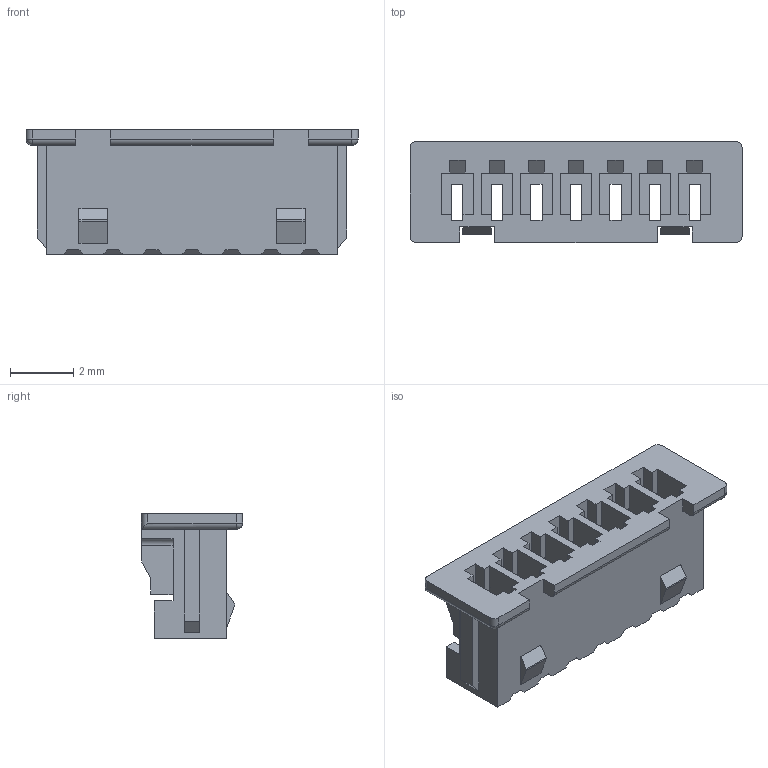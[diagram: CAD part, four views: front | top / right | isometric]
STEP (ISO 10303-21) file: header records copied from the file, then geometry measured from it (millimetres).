
FILE_DESCRIPTION(('CATIA V5 STEP Exchange'),'2;1');
FILE_NAME('F:\小黄\条形连接器\1.25系列\01--1.25\NY\HC-1.25-7Y-05(1.25 单排 孔座-HCTL).stp','2025-08-07T01:51:24+00:00',('none'),('none'),'CATIA Version 5 Release 20 GA (IN-10)','CATIA V5 STEP AP203','none');
FILE_SCHEMA(('CONFIG_CONTROL_DESIGN'));
Length unit declared in the file: millimetre
Products named in the file (1): Part2
Bounding box: 10.5 x 3.2 x 3.95 mm (x, y, z)
Volume: 52.4 mm3; surface area: 312.5 mm2
Topology: 1 solids, 1 shells, 277 faces, 806 edges, 510 vertices
Faces by surface type: plane 258, cylinder 17, sphere 2
Entity records: 8329 total; most frequent: ORIENTED_EDGE 1608, CARTESIAN_POINT 1497, DIRECTION 1104, EDGE_CURVE 804, VECTOR 744, LINE 744, VERTEX_POINT 510, EDGE_LOOP 286
